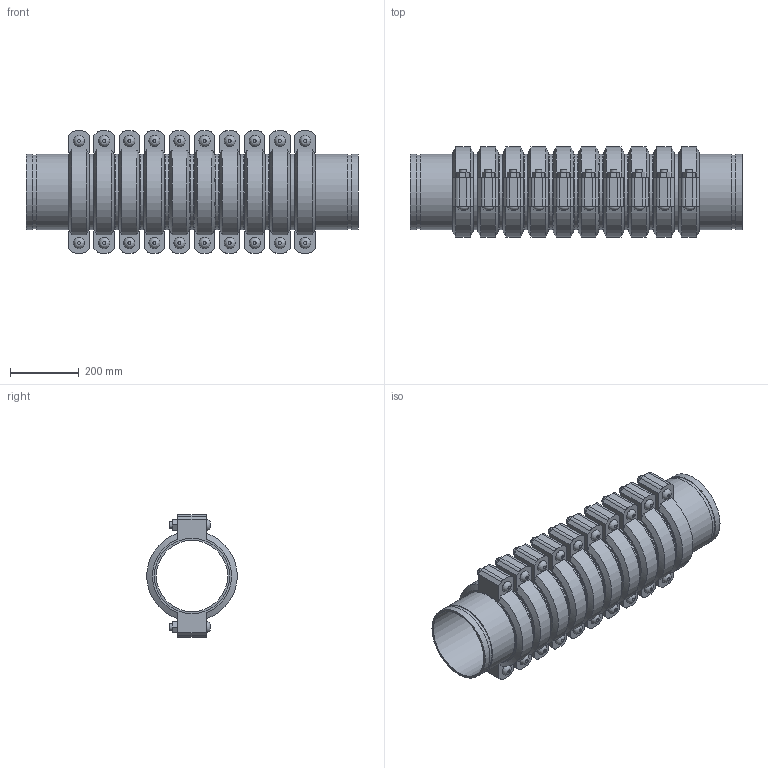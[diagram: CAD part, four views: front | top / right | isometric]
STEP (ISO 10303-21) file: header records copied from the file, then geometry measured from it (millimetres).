
FILE_DESCRIPTION(/* description */ ('VIC SS EXPANSION JOINT 10 COUPLINGS NEUTRAL STYLE 155P (OGS) (POTABLE WATER) ','CAx-IF Rec.Pracs.---Representation and Presentation of Product Manufacturing Information (PMI)---4.0---2014-10-13'),/* implementation_level */ '2;1');
FILE_NAME(/* name */ 'C:\Users\kkamble\AppData\Roaming\Autodesk\ApplicationPlugins\Victaulic.Temp\A116\Victaulic_SS_Expansion Joint_Neutral_10 Couplings_Style 155P (OGS)-Potable Water_10 Coup_Neut_8 (200).stp',/* time_stamp */ '2021-07-16T16:27:23+06:00',/* author */ ('kkamble'),/* organization */ ('Victaulic'),/* preprocessor_version */ 'ST-DEVELOPER v17.2',/* originating_system */ 'Autodesk Inventor 2019',/* authorisation */ '');
FILE_SCHEMA (('AP242_MANAGED_MODEL_BASED_3D_ENGINEERING_MIM_LF { 1 0 10303 442 1 1 4 }'));
Length unit declared in the file: inch
Products named in the file (4): 155P-08.0; Nipple-08.0; Nipple-08.0_1; 075-08.0
Assembly tree (21 placements, depth 2):
  155P-08.0
    Nipple-08.0  x2
    Nipple-08.0_1  x9
    075-08.0  x10
Bounding box: 965.2 x 261.72 x 354.84 mm (x, y, z)
Volume: 17128702.9 mm3; surface area: 3110099.5 mm2
Topology: 21 solids, 41 shells, 702 faces, 1660 edges, 1164 vertices
Faces by surface type: plane 426, cylinder 216, cone 40, bspline 20
Full cylindrical faces by diameter (mm): 19.05 x40, 21.209 x20, 206.985 x11, 212.725 x10, 214.401 x22, 219.075 x53
Entity records: 2881 total; most frequent: CARTESIAN_POINT 505, DIRECTION 485, ORIENTED_EDGE 386, AXIS2_PLACEMENT_3D 196, EDGE_CURVE 193, VERTEX_POINT 138, EDGE_LOOP 107, LINE 93
